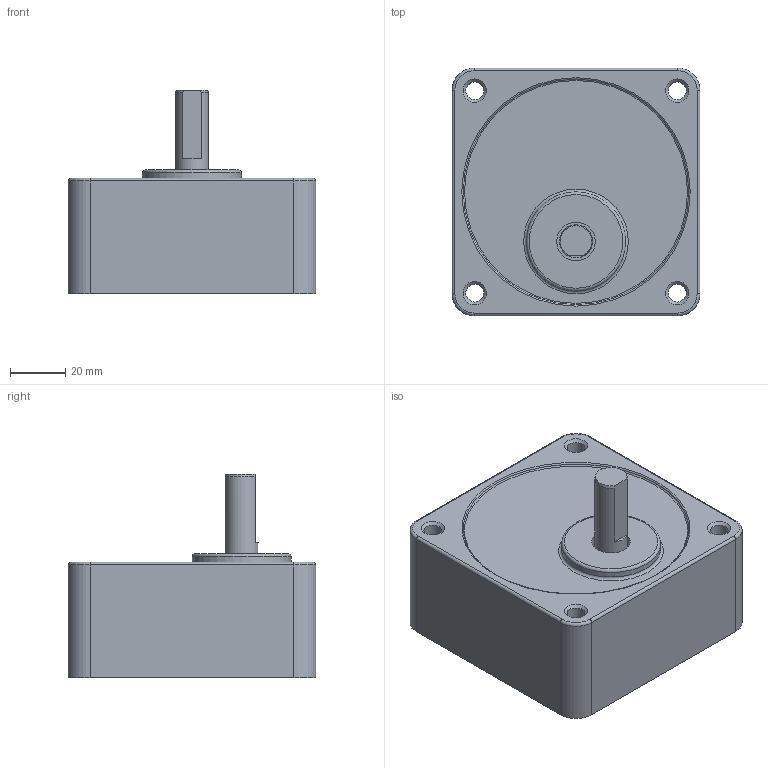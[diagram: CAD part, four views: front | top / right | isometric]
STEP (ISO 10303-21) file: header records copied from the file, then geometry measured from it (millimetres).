
FILE_DESCRIPTION((''),'2;1');
FILE_NAME('D:\STP파일\GEAR HEAD\40W\S9DB3~18.stp','2013-05-20T19:14:15',('leebh'),(''),'Autodesk Inventor 2011','Autodesk Inventor 2011','');
FILE_SCHEMA(('AUTOMOTIVE_DESIGN { 1 0 10303 214 1 1 1 1 }'));
Length unit declared in the file: millimetre
Products named in the file (1): S9I90G-T1
Bounding box: 90 x 90 x 74 mm (x, y, z)
Volume: 292137.8 mm3; surface area: 38032.5 mm2
Topology: 1 solids, 1 shells, 44 faces, 93 edges, 57 vertices
Faces by surface type: cylinder 17, plane 14, torus 8, cone 5
Full cylindrical faces by diameter (mm): 6.5 x4, 9 x1, 12 x1, 14 x1, 36 x1, 83 x1
Entity records: 1132 total; most frequent: DIRECTION 212, CARTESIAN_POINT 180, ORIENTED_EDGE 150, AXIS2_PLACEMENT_3D 94, EDGE_CURVE 75, EDGE_LOOP 75, VERTEX_POINT 56, CIRCLE 49
